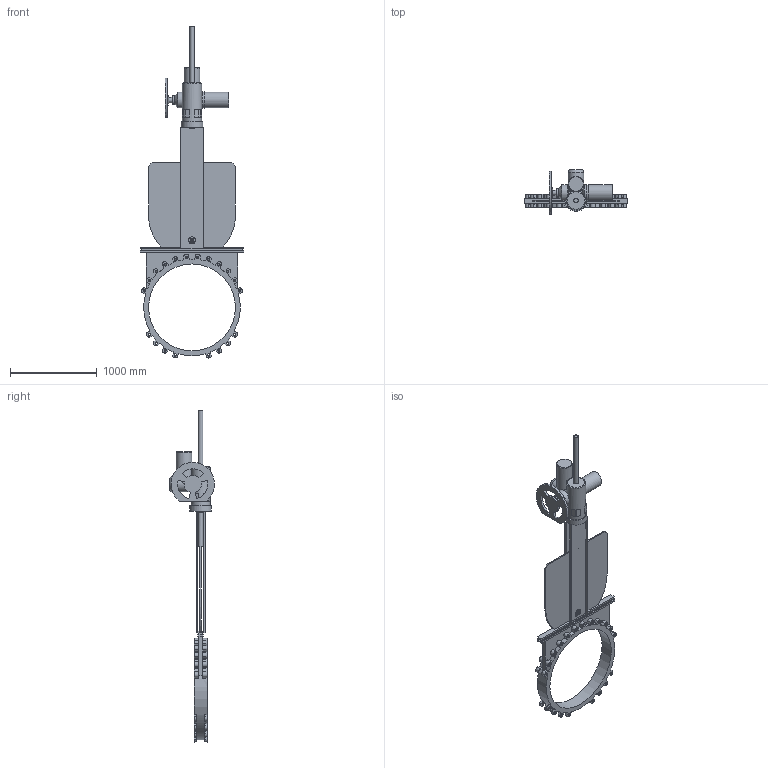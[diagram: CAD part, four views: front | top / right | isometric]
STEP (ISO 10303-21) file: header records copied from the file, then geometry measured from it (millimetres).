
FILE_DESCRIPTION(('STEP AP203'), '1');
FILE_NAME('K21GVA_DN1000+MT903.A 100', '', ('UNSPECIFIED'), ('UNSPECIFIED'), 'ASCON STEP Converter 1.6', 'ASCON Math Kernel', '');
FILE_SCHEMA(('CONFIG_CONTROL_DESIGN'));
Length unit declared in the file: millimetre
Bounding box: 1190 x 516.46 x 3822.23 mm (x, y, z)
Volume: 110575905 mm3; surface area: 7713653.9 mm2
Topology: 1 solids, 2 shells, 497 faces, 1359 edges, 891 vertices
Faces by surface type: plane 238, cylinder 216, cone 42, torus 1
Full cylindrical faces by diameter (mm): 13.835 x8, 18 x8, 26.211 x16, 29.211 x24, 52 x2, 60 x1, 80 x1, 100 x1, 140 x2, 180 x4, 187 x1, 191 x1, 220 x1, 250 x1, 1000 x1, 1112 x1
Entity records: 20102 total; most frequent: CARTESIAN_POINT 3634, DIRECTION 2720, ORIENTED_EDGE 2422, EDGE_CURVE 1211, AXIS2_PLACEMENT_3D 1034, VERTEX_POINT 858, EDGE_LOOP 677, LINE 652
